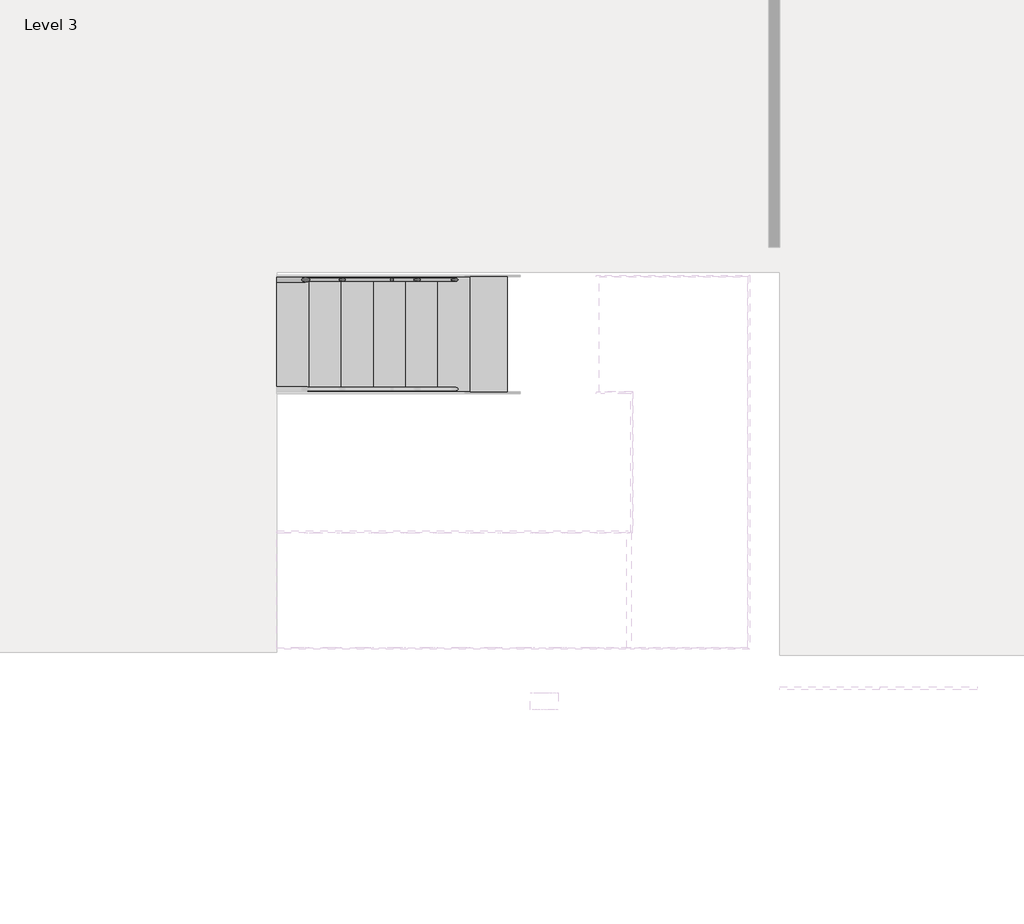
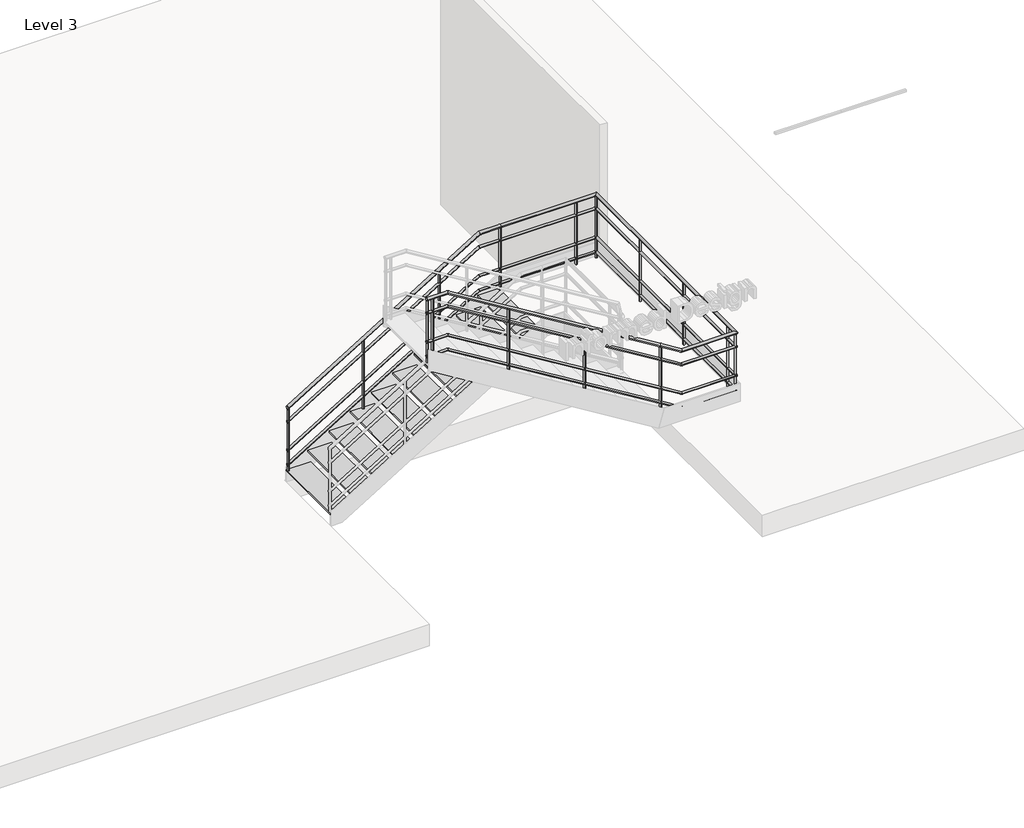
# One storey, part 6 of 7: 1 railing, 1 stair flight.
"""IFC4 building model written with IfcOpenShell, lengths in millimetres."""

from ifc_helpers import new_model, si_unit, point, frame, frame_2d, origin, place, context, project, spatial, circle_curve, ellipse_curve, trimmed, segment, composite_curve, outline, extrude, transform, mapped, element, save
from ifc_brep_helpers import plane_surface, cylinder_surface, advanced_brep
from components import concrete_steps_w_40mm_tread_40mm_nosing_744af4b3

model = new_model("IFC4")

# Units and contexts
model_context = context("Model", 3, world=origin())
ifc_project = project(units=[si_unit("LENGTHUNIT", "METRE", prefix="MILLI")], contexts=[model_context])

# Site, building, storey
site = spatial("IfcSite", under=ifc_project)
building = spatial("IfcBuilding", under=site)
storey = spatial("IfcBuildingStorey", under=building, Name="Level 3", Elevation=11000.0)

# Railing
placement = place(None, origin())
element("IfcRailing", 1, ObjectType="900mm_Pipe 2", at=placement, inside=storey, context=model_context, shape_type="SolidModel", body=[
    advanced_brep(
    [(35285.7942367, -43.5974508, 12047.9778246), (35285.7942367, -3.5974508, 12047.9778246), (37811.4304565, -43.5974508, 13594.2857143), (37811.4304565, -3.5974508, 13594.2857143), (38085.7942367, -43.5974508, 13594.2857143), (38085.7942367, -3.5974508, 13594.2857143), (39331.5511446, -43.5974508, 13594.2857143), (39371.5511446, -3.5974508, 13594.2857143), (39331.5511446, -3174.6053409, 13594.2857143), (39371.5511446, -3214.6053409, 13594.2857143), (38640.1580169, -3174.6053409, 13594.2857143), (38640.1580169, -3214.6053409, 13594.2857143), (38355.3511595, -3174.6053409, 13768.6572596), (38355.3511595, -3214.6053409, 13768.6572596), (35560.1580169, -3174.6053409, 15480.0), (35560.1580169, -3214.6053409, 15480.0), (35285.7942367, -3174.6053409, 15480.0), (35285.7942367, -3214.6053409, 15480.0)],
    [
        (0, 1, ellipse_curve(frame((35285.7942367, -23.5974508, 12047.9778246), z_axis=(-1.0, 0.0, 0.0), x_axis=(0.0, 0.0, -1.0)), 23.4507468, 20.0)),
        (1, 0, ellipse_curve(frame((35285.7942367, -23.5974508, 12047.9778246), z_axis=(-1.0, 0.0, 0.0), x_axis=(0.0, 0.0, -1.0)), 23.4507468, 20.0)),
        (0, 2),
        (2, 3, ellipse_curve(frame((37811.4304565, -23.5974508, 13594.2857143), z_axis=(-0.9625100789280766, 0.0, -0.27124591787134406), x_axis=(0.27124591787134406, 0.0, -0.9625100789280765)), 20.7790032, 20.0)),
        (3, 1),
        (3, 2, ellipse_curve(frame((37811.4304565, -23.5974508, 13594.2857143), z_axis=(-0.9625100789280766, 0.0, -0.27124591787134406), x_axis=(0.27124591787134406, 0.0, -0.9625100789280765)), 20.7790032, 20.0)),
        (2, 4),
        (4, 5, circle_curve(frame((38085.7942367, -23.5974508, 13594.2857143), z_axis=(-1.0, 0.0, 0.0), x_axis=(0.0, 1.0, 0.0)), 20.0)),
        (5, 3),
        (5, 4, circle_curve(frame((38085.7942367, -23.5974508, 13594.2857143), z_axis=(-1.0, 0.0, 0.0), x_axis=(0.0, 1.0, 0.0)), 20.0)),
        (4, 6),
        (6, 7, ellipse_curve(frame((39351.5511446, -23.5974508, 13594.2857143), z_axis=(-0.7071067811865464, 0.7071067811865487, 0.0), x_axis=(-0.7071067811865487, -0.7071067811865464, 0.0)), 28.2842712, 20.0)),
        (7, 5),
        (7, 6, ellipse_curve(frame((39351.5511446, -23.5974508, 13594.2857143), z_axis=(-0.7071067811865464, 0.7071067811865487, 0.0), x_axis=(-0.7071067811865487, -0.7071067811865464, 0.0)), 28.2842712, 20.0)),
        (6, 8),
        (8, 9, ellipse_curve(frame((39351.5511446, -3194.6053409, 13594.2857143), z_axis=(0.7071067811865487, 0.7071067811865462, 0.0), x_axis=(-0.7071067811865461, 0.7071067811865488, 0.0)), 28.2842712, 20.0)),
        (9, 7),
        (9, 8, ellipse_curve(frame((39351.5511446, -3194.6053409, 13594.2857143), z_axis=(0.7071067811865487, 0.7071067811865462, 0.0), x_axis=(-0.7071067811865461, 0.7071067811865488, 0.0)), 28.2842712, 20.0)),
        (8, 10),
        (10, 11, ellipse_curve(frame((38640.1580169, -3194.6053409, 13594.2857143), z_axis=(0.962510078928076, 0.0, -0.2712459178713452), x_axis=(0.27124591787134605, 0.0, 0.9625100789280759)), 20.7790032, 20.0)),
        (11, 9),
        (11, 10, ellipse_curve(frame((38640.1580169, -3194.6053409, 13594.2857143), z_axis=(0.962510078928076, 0.0, -0.2712459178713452), x_axis=(0.27124591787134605, 0.0, 0.9625100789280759)), 20.7790032, 20.0)),
        (10, 12),
        (12, 13, circle_curve(frame((38355.3511595, -3194.6053409, 13768.6572596), z_axis=(0.8528513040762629, 0.0, -0.522153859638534), x_axis=(0.0, -1.0, 0.0)), 20.0)),
        (13, 11),
        (13, 12, circle_curve(frame((38355.3511595, -3194.6053409, 13768.6572596), z_axis=(0.8528513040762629, 0.0, -0.522153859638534), x_axis=(0.0, -1.0, 0.0)), 20.0)),
        (12, 14),
        (14, 15, ellipse_curve(frame((35560.1580169, -3194.6053409, 15480.0), z_axis=(0.9625100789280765, 0.0, -0.2712459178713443), x_axis=(-0.2712459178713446, 0.0, -0.9625100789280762)), 20.7790032, 20.0)),
        (15, 13),
        (15, 14, ellipse_curve(frame((35560.1580169, -3194.6053409, 15480.0), z_axis=(0.9625100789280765, 0.0, -0.2712459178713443), x_axis=(-0.2712459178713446, 0.0, -0.9625100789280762)), 20.7790032, 20.0)),
        (16, 17, circle_curve(frame((35285.7942367, -3194.6053409, 15480.0), z_axis=(-1.0, 0.0, 0.0), x_axis=(0.0, -1.0, 0.0)), 20.0)),
        (17, 16, circle_curve(frame((35285.7942367, -3194.6053409, 15480.0), z_axis=(-1.0, 0.0, 0.0), x_axis=(0.0, -1.0, 0.0)), 20.0)),
        (14, 16),
        (17, 15),
    ],
    [
        plane_surface(frame((35285.7942367, -23.5974508, 12071.4285714), z_axis=(-1.0, 0.0, 0.0), x_axis=(0.0, 1.0, 0.0))),
        cylinder_surface(frame((35296.2373139, -23.5974508, 12054.3715453), z_axis=(-0.8528513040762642, 0.0, -0.5221538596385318), x_axis=(0.0, 1.0, 0.0)), 20.0),
        cylinder_surface(frame((37805.7942367, -23.5974508, 13594.2857143), z_axis=(-1.0, 0.0, 0.0), x_axis=(0.0, 1.0, 0.0)), 20.0),
        cylinder_surface(frame((38085.7942367, -23.5974508, 13594.2857143), z_axis=(-1.0, 0.0, 0.0), x_axis=(0.0, 1.0, 0.0)), 20.0),
        cylinder_surface(frame((39351.5511446, -23.5974508, 13594.2857143), z_axis=(0.0, 1.0, 0.0), x_axis=(1.0, 0.0, 0.0)), 20.0),
        cylinder_surface(frame((39351.5511446, -3194.6053409, 13594.2857143), z_axis=(1.0, 0.0, 0.0), x_axis=(0.0, -1.0, 0.0)), 20.0),
        cylinder_surface(frame((38635.3511595, -3194.6053409, 13597.2286882), z_axis=(0.8528513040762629, 0.0, -0.522153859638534), x_axis=(0.0, -1.0, 0.0)), 20.0),
        cylinder_surface(frame((38355.3511595, -3194.6053409, 13768.6572596), z_axis=(0.852851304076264, 0.0, -0.5221538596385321), x_axis=(0.0, -1.0, 0.0)), 20.0),
        plane_surface(frame((35285.7942367, -3194.6053409, 15500.0), z_axis=(-1.0, 0.0, 0.0), x_axis=(0.0, -1.0, 0.0))),
        cylinder_surface(frame((35565.7942367, -3194.6053409, 15480.0), z_axis=(1.0, 0.0, 0.0), x_axis=(0.0, -1.0, 0.0)), 20.0),
    ],
    [
        (0, [[1, 2]]),
        (1, [[-1, 3, 4, 5]]),
        (1, [[-2, -5, 6, -3]]),
        (2, [[-4, 7, 8, 9]]),
        (2, [[-6, -9, 10, -7]]),
        (3, [[-8, 11, 12, 13]]),
        (3, [[-10, -13, 14, -11]]),
        (4, [[-12, 15, 16, 17]]),
        (4, [[-14, -17, 18, -15]]),
        (5, [[-16, 19, 20, 21]]),
        (5, [[-18, -21, 22, -19]]),
        (6, [[-20, 23, 24, 25]]),
        (6, [[-22, -25, 26, -23]]),
        (7, [[-24, 27, 28, 29]]),
        (7, [[-26, -29, 30, -27]]),
        (8, [[31, 32]]),
        (9, [[-28, 33, -32, 34]]),
        (9, [[-30, -34, -31, -33]]),
    ],
),
    advanced_brep(
    [(35285.7942367, -38.5974508, 11853.8405113), (35285.7942367, -8.5974508, 11853.8405113), (37810.0214015, -38.5974508, 13399.2857143), (37810.0214015, -8.5974508, 13399.2857143), (38085.7942367, -38.5974508, 13399.2857143), (38085.7942367, -8.5974508, 13399.2857143)],
    [
        (0, 1, ellipse_curve(frame((35285.7942367, -23.5974508, 11853.8405113), z_axis=(-1.0, 0.0, 0.0), x_axis=(0.0, 0.0, -1.0)), 17.5880601, 15.0)),
        (1, 0, ellipse_curve(frame((35285.7942367, -23.5974508, 11853.8405113), z_axis=(-1.0, 0.0, 0.0), x_axis=(0.0, 0.0, -1.0)), 17.5880601, 15.0)),
        (0, 2),
        (2, 3, ellipse_curve(frame((37810.0214015, -23.5974508, 13399.2857143), z_axis=(-0.9625100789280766, 0.0, -0.27124591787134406), x_axis=(0.27124591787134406, 0.0, -0.9625100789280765)), 15.5842524, 15.0)),
        (3, 1),
        (3, 2, ellipse_curve(frame((37810.0214015, -23.5974508, 13399.2857143), z_axis=(-0.9625100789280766, 0.0, -0.27124591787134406), x_axis=(0.27124591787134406, 0.0, -0.9625100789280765)), 15.5842524, 15.0)),
        (4, 5, circle_curve(frame((38085.7942367, -23.5974508, 13399.2857143), z_axis=(1.0, 0.0, 0.0), x_axis=(0.0, 1.0, 0.0)), 15.0)),
        (5, 4, circle_curve(frame((38085.7942367, -23.5974508, 13399.2857143), z_axis=(1.0, 0.0, 0.0), x_axis=(0.0, 1.0, 0.0)), 15.0)),
        (2, 4),
        (5, 3),
    ],
    [
        plane_surface(frame((35285.7942367, -23.5974508, 11871.4285714), z_axis=(-1.0, 0.0, 0.0), x_axis=(0.0, 1.0, 0.0))),
        cylinder_surface(frame((35293.6265446, -23.5974508, 11858.6358019), z_axis=(-0.8528513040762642, 0.0, -0.5221538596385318), x_axis=(0.0, 1.0, 0.0)), 15.0),
        plane_surface(frame((38085.7942367, -23.5974508, 13414.2857143), z_axis=(1.0, 0.0, 0.0), x_axis=(0.0, 1.0, 0.0))),
        cylinder_surface(frame((37805.7942367, -23.5974508, 13399.2857143), z_axis=(-1.0, 0.0, 0.0), x_axis=(0.0, 1.0, 0.0)), 15.0),
    ],
    [
        (0, [[1, 2]]),
        (1, [[-1, 3, 4, 5]]),
        (1, [[-2, -5, 6, -3]]),
        (2, [[7, 8]]),
        (3, [[-4, 9, -8, 10]]),
        (3, [[-6, -10, -7, -9]]),
    ],
),
    advanced_brep(
    [(38085.7942367, -38.5974508, 13399.2857143), (38085.7942367, -8.5974508, 13399.2857143), (39336.5511446, -38.5974508, 13399.2857143), (39336.5511446, -8.5974508, 13399.2857143)],
    [
        (0, 1, circle_curve(frame((38085.7942367, -23.5974508, 13399.2857143), z_axis=(-1.0, 0.0, 0.0), x_axis=(0.0, 1.0, 0.0)), 15.0)),
        (1, 0, circle_curve(frame((38085.7942367, -23.5974508, 13399.2857143), z_axis=(-1.0, 0.0, 0.0), x_axis=(0.0, 1.0, 0.0)), 15.0)),
        (2, 3, circle_curve(frame((39336.5511446, -23.5974508, 13399.2857143), z_axis=(1.0, 0.0, 0.0), x_axis=(0.0, 1.0, 0.0)), 15.0)),
        (3, 2, circle_curve(frame((39336.5511446, -23.5974508, 13399.2857143), z_axis=(1.0, 0.0, 0.0), x_axis=(0.0, 1.0, 0.0)), 15.0)),
        (0, 2),
        (3, 1),
    ],
    [
        plane_surface(frame((38085.7942367, -23.5974508, 13414.2857143), z_axis=(-1.0, 0.0, 0.0), x_axis=(0.0, 1.0, 0.0))),
        plane_surface(frame((39336.5511446, -23.5974508, 13414.2857143), z_axis=(1.0, 0.0, 0.0), x_axis=(0.0, 1.0, 0.0))),
        cylinder_surface(frame((38085.7942367, -23.5974508, 13399.2857143), z_axis=(-1.0, 0.0, 0.0), x_axis=(0.0, 1.0, 0.0)), 15.0),
    ],
    [
        (0, [[1, 2]]),
        (1, [[3, 4]]),
        (2, [[-1, 5, -4, 6]]),
        (2, [[-2, -6, -3, -5]]),
    ],
),
    advanced_brep(
    [(39336.5511446, -8.5974508, 13399.2857143), (39366.5511446, -8.5974508, 13399.2857143), (39336.5511446, -3179.6053409, 13399.2857143), (39366.5511446, -3179.6053409, 13399.2857143)],
    [
        (0, 1, circle_curve(frame((39351.5511446, -8.5974508, 13399.2857143), z_axis=(0.0, 1.0, 0.0), x_axis=(1.0, 0.0, 0.0)), 15.0)),
        (1, 0, circle_curve(frame((39351.5511446, -8.5974508, 13399.2857143), z_axis=(0.0, 1.0, 0.0), x_axis=(1.0, 0.0, 0.0)), 15.0)),
        (2, 3, circle_curve(frame((39351.5511446, -3179.6053409, 13399.2857143), z_axis=(0.0, -1.0, 0.0), x_axis=(1.0, 0.0, 0.0)), 15.0)),
        (3, 2, circle_curve(frame((39351.5511446, -3179.6053409, 13399.2857143), z_axis=(0.0, -1.0, 0.0), x_axis=(1.0, 0.0, 0.0)), 15.0)),
        (0, 2),
        (3, 1),
    ],
    [
        plane_surface(frame((39351.5511446, -8.5974508, 13414.2857143), z_axis=(0.0, 1.0, 0.0), x_axis=(0.0, 0.0, -1.0))),
        plane_surface(frame((39351.5511446, -3179.6053409, 13414.2857143), z_axis=(0.0, -1.0, 0.0), x_axis=(0.0, 0.0, -1.0))),
        cylinder_surface(frame((39351.5511446, -8.5974508, 13399.2857143), z_axis=(0.0, 1.0, 0.0), x_axis=(1.0, 0.0, 0.0)), 15.0),
    ],
    [
        (0, [[1, 2]]),
        (1, [[3, 4]]),
        (2, [[-1, 5, -4, 6]]),
        (2, [[-2, -6, -3, -5]]),
    ],
),
    advanced_brep(
    [(39366.5511446, -3179.6053409, 13399.2857143), (39366.5511446, -3209.6053409, 13399.2857143), (38641.5670718, -3179.6053409, 13399.2857143), (38641.5670718, -3209.6053409, 13399.2857143), (38365.7942367, -3179.6053409, 13568.1262256), (38365.7942367, -3209.6053409, 13568.1262256)],
    [
        (0, 1, circle_curve(frame((39366.5511446, -3194.6053409, 13399.2857143), z_axis=(1.0, 0.0, 0.0), x_axis=(0.0, -1.0, 0.0)), 15.0)),
        (1, 0, circle_curve(frame((39366.5511446, -3194.6053409, 13399.2857143), z_axis=(1.0, 0.0, 0.0), x_axis=(0.0, -1.0, 0.0)), 15.0)),
        (0, 2),
        (2, 3, ellipse_curve(frame((38641.5670718, -3194.6053409, 13399.2857143), z_axis=(0.962510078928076, 0.0, -0.2712459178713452), x_axis=(0.27124591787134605, 0.0, 0.9625100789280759)), 15.5842524, 15.0)),
        (3, 1),
        (3, 2, ellipse_curve(frame((38641.5670718, -3194.6053409, 13399.2857143), z_axis=(0.962510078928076, 0.0, -0.2712459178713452), x_axis=(0.27124591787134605, 0.0, 0.9625100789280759)), 15.5842524, 15.0)),
        (4, 5, ellipse_curve(frame((38365.7942367, -3194.6053409, 13568.1262256), z_axis=(-1.0, 0.0, 0.0), x_axis=(0.0, 0.0, -1.0)), 17.5880601, 15.0)),
        (5, 4, ellipse_curve(frame((38365.7942367, -3194.6053409, 13568.1262256), z_axis=(-1.0, 0.0, 0.0), x_axis=(0.0, 0.0, -1.0)), 17.5880601, 15.0)),
        (2, 4),
        (5, 3),
    ],
    [
        plane_surface(frame((39366.5511446, -3194.6053409, 13414.2857143), z_axis=(1.0, 0.0, 0.0), x_axis=(0.0, -1.0, 0.0))),
        cylinder_surface(frame((39366.5511446, -3194.6053409, 13399.2857143), z_axis=(1.0, 0.0, 0.0), x_axis=(0.0, -1.0, 0.0)), 15.0),
        plane_surface(frame((38365.7942367, -3194.6053409, 13585.7142857), z_axis=(-1.0, 0.0, 0.0), x_axis=(0.0, -1.0, 0.0))),
        cylinder_surface(frame((38637.9619288, -3194.6053409, 13401.4929447), z_axis=(0.8528513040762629, 0.0, -0.522153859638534), x_axis=(0.0, -1.0, 0.0)), 15.0),
    ],
    [
        (0, [[1, 2]]),
        (1, [[-1, 3, 4, 5]]),
        (1, [[-2, -5, 6, -3]]),
        (2, [[7, 8]]),
        (3, [[-4, 9, -8, 10]]),
        (3, [[-6, -10, -7, -9]]),
    ],
),
    advanced_brep(
    [(38365.7942367, -3179.6053409, 13568.1262256), (38365.7942367, -3209.6053409, 13568.1262256), (35561.5670718, -3179.6053409, 15285.0), (35561.5670718, -3209.6053409, 15285.0), (35285.7942367, -3179.6053409, 15285.0), (35285.7942367, -3209.6053409, 15285.0)],
    [
        (0, 1, ellipse_curve(frame((38365.7942367, -3194.6053409, 13568.1262256), z_axis=(1.0, 0.0, 0.0), x_axis=(0.0, 0.0, -1.0)), 17.5880601, 15.0)),
        (1, 0, ellipse_curve(frame((38365.7942367, -3194.6053409, 13568.1262256), z_axis=(1.0, 0.0, 0.0), x_axis=(0.0, 0.0, -1.0)), 17.5880601, 15.0)),
        (0, 2),
        (2, 3, ellipse_curve(frame((35561.5670718, -3194.6053409, 15285.0), z_axis=(0.9625100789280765, 0.0, -0.2712459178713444), x_axis=(-0.2712459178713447, 0.0, -0.9625100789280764)), 15.5842524, 15.0)),
        (3, 1),
        (3, 2, ellipse_curve(frame((35561.5670718, -3194.6053409, 15285.0), z_axis=(0.9625100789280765, 0.0, -0.2712459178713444), x_axis=(-0.2712459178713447, 0.0, -0.9625100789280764)), 15.5842524, 15.0)),
        (4, 5, circle_curve(frame((35285.7942367, -3194.6053409, 15285.0), z_axis=(-1.0, 0.0, 0.0), x_axis=(0.0, -1.0, 0.0)), 15.0)),
        (5, 4, circle_curve(frame((35285.7942367, -3194.6053409, 15285.0), z_axis=(-1.0, 0.0, 0.0), x_axis=(0.0, -1.0, 0.0)), 15.0)),
        (2, 4),
        (5, 3),
    ],
    [
        plane_surface(frame((38365.7942367, -3194.6053409, 13585.7142857), z_axis=(1.0, 0.0, 0.0), x_axis=(0.0, -1.0, 0.0))),
        cylinder_surface(frame((38357.9619288, -3194.6053409, 13572.9215162), z_axis=(0.852851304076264, 0.0, -0.5221538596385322), x_axis=(0.0, -1.0, 0.0)), 15.0),
        plane_surface(frame((35285.7942367, -3194.6053409, 15300.0), z_axis=(-1.0, 0.0, 0.0), x_axis=(0.0, -1.0, 0.0))),
        cylinder_surface(frame((35565.7942367, -3194.6053409, 15285.0), z_axis=(1.0, 0.0, 0.0), x_axis=(0.0, -1.0, 0.0)), 15.0),
    ],
    [
        (0, [[1, 2]]),
        (1, [[-1, 3, 4, 5]]),
        (1, [[-2, -5, 6, -3]]),
        (2, [[7, 8]]),
        (3, [[-4, 9, -8, 10]]),
        (3, [[-6, -10, -7, -9]]),
    ],
),
    advanced_brep(
    [(35285.7942367, -38.5974508, 11453.8405113), (35285.7942367, -8.5974508, 11453.8405113), (37810.0214015, -38.5974508, 12999.2857143), (37810.0214015, -8.5974508, 12999.2857143), (38085.7942367, -38.5974508, 12999.2857143), (38085.7942367, -8.5974508, 12999.2857143)],
    [
        (0, 1, ellipse_curve(frame((35285.7942367, -23.5974508, 11453.8405113), z_axis=(-1.0, 0.0, 0.0), x_axis=(0.0, 0.0, -1.0)), 17.5880601, 15.0)),
        (1, 0, ellipse_curve(frame((35285.7942367, -23.5974508, 11453.8405113), z_axis=(-1.0, 0.0, 0.0), x_axis=(0.0, 0.0, -1.0)), 17.5880601, 15.0)),
        (0, 2),
        (2, 3, ellipse_curve(frame((37810.0214015, -23.5974508, 12999.2857143), z_axis=(-0.9625100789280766, 0.0, -0.27124591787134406), x_axis=(0.27124591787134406, 0.0, -0.9625100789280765)), 15.5842524, 15.0)),
        (3, 1),
        (3, 2, ellipse_curve(frame((37810.0214015, -23.5974508, 12999.2857143), z_axis=(-0.9625100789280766, 0.0, -0.27124591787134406), x_axis=(0.27124591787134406, 0.0, -0.9625100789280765)), 15.5842524, 15.0)),
        (4, 5, circle_curve(frame((38085.7942367, -23.5974508, 12999.2857143), z_axis=(1.0, 0.0, 0.0), x_axis=(0.0, 1.0, 0.0)), 15.0)),
        (5, 4, circle_curve(frame((38085.7942367, -23.5974508, 12999.2857143), z_axis=(1.0, 0.0, 0.0), x_axis=(0.0, 1.0, 0.0)), 15.0)),
        (2, 4),
        (5, 3),
    ],
    [
        plane_surface(frame((35285.7942367, -23.5974508, 11471.4285714), z_axis=(-1.0, 0.0, 0.0), x_axis=(0.0, 1.0, 0.0))),
        cylinder_surface(frame((35293.6265446, -23.5974508, 11458.6358019), z_axis=(-0.8528513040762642, 0.0, -0.5221538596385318), x_axis=(0.0, 1.0, 0.0)), 15.0),
        plane_surface(frame((38085.7942367, -23.5974508, 13014.2857143), z_axis=(1.0, 0.0, 0.0), x_axis=(0.0, 1.0, 0.0))),
        cylinder_surface(frame((37805.7942367, -23.5974508, 12999.2857143), z_axis=(-1.0, 0.0, 0.0), x_axis=(0.0, 1.0, 0.0)), 15.0),
    ],
    [
        (0, [[1, 2]]),
        (1, [[-1, 3, 4, 5]]),
        (1, [[-2, -5, 6, -3]]),
        (2, [[7, 8]]),
        (3, [[-4, 9, -8, 10]]),
        (3, [[-6, -10, -7, -9]]),
    ],
),
    advanced_brep(
    [(38085.7942367, -38.5974508, 12999.2857143), (38085.7942367, -8.5974508, 12999.2857143), (39336.5511446, -38.5974508, 12999.2857143), (39336.5511446, -8.5974508, 12999.2857143)],
    [
        (0, 1, circle_curve(frame((38085.7942367, -23.5974508, 12999.2857143), z_axis=(-1.0, 0.0, 0.0), x_axis=(0.0, 1.0, 0.0)), 15.0)),
        (1, 0, circle_curve(frame((38085.7942367, -23.5974508, 12999.2857143), z_axis=(-1.0, 0.0, 0.0), x_axis=(0.0, 1.0, 0.0)), 15.0)),
        (2, 3, circle_curve(frame((39336.5511446, -23.5974508, 12999.2857143), z_axis=(1.0, 0.0, 0.0), x_axis=(0.0, 1.0, 0.0)), 15.0)),
        (3, 2, circle_curve(frame((39336.5511446, -23.5974508, 12999.2857143), z_axis=(1.0, 0.0, 0.0), x_axis=(0.0, 1.0, 0.0)), 15.0)),
        (0, 2),
        (3, 1),
    ],
    [
        plane_surface(frame((38085.7942367, -23.5974508, 13014.2857143), z_axis=(-1.0, 0.0, 0.0), x_axis=(0.0, 1.0, 0.0))),
        plane_surface(frame((39336.5511446, -23.5974508, 13014.2857143), z_axis=(1.0, 0.0, 0.0), x_axis=(0.0, 1.0, 0.0))),
        cylinder_surface(frame((38085.7942367, -23.5974508, 12999.2857143), z_axis=(-1.0, 0.0, 0.0), x_axis=(0.0, 1.0, 0.0)), 15.0),
    ],
    [
        (0, [[1, 2]]),
        (1, [[3, 4]]),
        (2, [[-1, 5, -4, 6]]),
        (2, [[-2, -6, -3, -5]]),
    ],
),
    advanced_brep(
    [(39336.5511446, -8.5974508, 12999.2857143), (39366.5511446, -8.5974508, 12999.2857143), (39336.5511446, -3179.6053409, 12999.2857143), (39366.5511446, -3179.6053409, 12999.2857143)],
    [
        (0, 1, circle_curve(frame((39351.5511446, -8.5974508, 12999.2857143), z_axis=(0.0, 1.0, 0.0), x_axis=(1.0, 0.0, 0.0)), 15.0)),
        (1, 0, circle_curve(frame((39351.5511446, -8.5974508, 12999.2857143), z_axis=(0.0, 1.0, 0.0), x_axis=(1.0, 0.0, 0.0)), 15.0)),
        (2, 3, circle_curve(frame((39351.5511446, -3179.6053409, 12999.2857143), z_axis=(0.0, -1.0, 0.0), x_axis=(1.0, 0.0, 0.0)), 15.0)),
        (3, 2, circle_curve(frame((39351.5511446, -3179.6053409, 12999.2857143), z_axis=(0.0, -1.0, 0.0), x_axis=(1.0, 0.0, 0.0)), 15.0)),
        (0, 2),
        (3, 1),
    ],
    [
        plane_surface(frame((39351.5511446, -8.5974508, 13014.2857143), z_axis=(0.0, 1.0, 0.0), x_axis=(0.0, 0.0, -1.0))),
        plane_surface(frame((39351.5511446, -3179.6053409, 13014.2857143), z_axis=(0.0, -1.0, 0.0), x_axis=(0.0, 0.0, -1.0))),
        cylinder_surface(frame((39351.5511446, -8.5974508, 12999.2857143), z_axis=(0.0, 1.0, 0.0), x_axis=(1.0, 0.0, 0.0)), 15.0),
    ],
    [
        (0, [[1, 2]]),
        (1, [[3, 4]]),
        (2, [[-1, 5, -4, 6]]),
        (2, [[-2, -6, -3, -5]]),
    ],
),
    advanced_brep(
    [(39366.5511446, -3179.6053409, 12999.2857143), (39366.5511446, -3209.6053409, 12999.2857143), (38641.5670718, -3179.6053409, 12999.2857143), (38641.5670718, -3209.6053409, 12999.2857143), (38365.7942367, -3179.6053409, 13168.1262256), (38365.7942367, -3209.6053409, 13168.1262256)],
    [
        (0, 1, circle_curve(frame((39366.5511446, -3194.6053409, 12999.2857143), z_axis=(1.0, 0.0, 0.0), x_axis=(0.0, -1.0, 0.0)), 15.0)),
        (1, 0, circle_curve(frame((39366.5511446, -3194.6053409, 12999.2857143), z_axis=(1.0, 0.0, 0.0), x_axis=(0.0, -1.0, 0.0)), 15.0)),
        (0, 2),
        (2, 3, ellipse_curve(frame((38641.5670718, -3194.6053409, 12999.2857143), z_axis=(0.962510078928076, 0.0, -0.2712459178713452), x_axis=(0.27124591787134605, 0.0, 0.9625100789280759)), 15.5842524, 15.0)),
        (3, 1),
        (3, 2, ellipse_curve(frame((38641.5670718, -3194.6053409, 12999.2857143), z_axis=(0.962510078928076, 0.0, -0.2712459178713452), x_axis=(0.27124591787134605, 0.0, 0.9625100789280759)), 15.5842524, 15.0)),
        (4, 5, ellipse_curve(frame((38365.7942367, -3194.6053409, 13168.1262256), z_axis=(-1.0, 0.0, 0.0), x_axis=(0.0, 0.0, -1.0)), 17.5880601, 15.0)),
        (5, 4, ellipse_curve(frame((38365.7942367, -3194.6053409, 13168.1262256), z_axis=(-1.0, 0.0, 0.0), x_axis=(0.0, 0.0, -1.0)), 17.5880601, 15.0)),
        (2, 4),
        (5, 3),
    ],
    [
        plane_surface(frame((39366.5511446, -3194.6053409, 13014.2857143), z_axis=(1.0, 0.0, 0.0), x_axis=(0.0, -1.0, 0.0))),
        cylinder_surface(frame((39366.5511446, -3194.6053409, 12999.2857143), z_axis=(1.0, 0.0, 0.0), x_axis=(0.0, -1.0, 0.0)), 15.0),
        plane_surface(frame((38365.7942367, -3194.6053409, 13185.7142857), z_axis=(-1.0, 0.0, 0.0), x_axis=(0.0, -1.0, 0.0))),
        cylinder_surface(frame((38637.9619288, -3194.6053409, 13001.4929447), z_axis=(0.8528513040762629, 0.0, -0.522153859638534), x_axis=(0.0, -1.0, 0.0)), 15.0),
    ],
    [
        (0, [[1, 2]]),
        (1, [[-1, 3, 4, 5]]),
        (1, [[-2, -5, 6, -3]]),
        (2, [[7, 8]]),
        (3, [[-4, 9, -8, 10]]),
        (3, [[-6, -10, -7, -9]]),
    ],
),
    advanced_brep(
    [(38365.7942367, -3179.6053409, 13168.1262256), (38365.7942367, -3209.6053409, 13168.1262256), (35561.5670718, -3179.6053409, 14885.0), (35561.5670718, -3209.6053409, 14885.0), (35285.7942367, -3179.6053409, 14885.0), (35285.7942367, -3209.6053409, 14885.0)],
    [
        (0, 1, ellipse_curve(frame((38365.7942367, -3194.6053409, 13168.1262256), z_axis=(1.0, 0.0, 0.0), x_axis=(0.0, 0.0, -1.0)), 17.5880601, 15.0)),
        (1, 0, ellipse_curve(frame((38365.7942367, -3194.6053409, 13168.1262256), z_axis=(1.0, 0.0, 0.0), x_axis=(0.0, 0.0, -1.0)), 17.5880601, 15.0)),
        (0, 2),
        (2, 3, ellipse_curve(frame((35561.5670718, -3194.6053409, 14885.0), z_axis=(0.9625100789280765, 0.0, -0.2712459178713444), x_axis=(-0.2712459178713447, 0.0, -0.9625100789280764)), 15.5842524, 15.0)),
        (3, 1),
        (3, 2, ellipse_curve(frame((35561.5670718, -3194.6053409, 14885.0), z_axis=(0.9625100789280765, 0.0, -0.2712459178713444), x_axis=(-0.2712459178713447, 0.0, -0.9625100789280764)), 15.5842524, 15.0)),
        (4, 5, circle_curve(frame((35285.7942367, -3194.6053409, 14885.0), z_axis=(-1.0, 0.0, 0.0), x_axis=(0.0, -1.0, 0.0)), 15.0)),
        (5, 4, circle_curve(frame((35285.7942367, -3194.6053409, 14885.0), z_axis=(-1.0, 0.0, 0.0), x_axis=(0.0, -1.0, 0.0)), 15.0)),
        (2, 4),
        (5, 3),
    ],
    [
        plane_surface(frame((38365.7942367, -3194.6053409, 13185.7142857), z_axis=(1.0, 0.0, 0.0), x_axis=(0.0, -1.0, 0.0))),
        cylinder_surface(frame((38357.9619288, -3194.6053409, 13172.9215162), z_axis=(0.852851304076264, 0.0, -0.5221538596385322), x_axis=(0.0, -1.0, 0.0)), 15.0),
        plane_surface(frame((35285.7942367, -3194.6053409, 14900.0), z_axis=(-1.0, 0.0, 0.0), x_axis=(0.0, -1.0, 0.0))),
        cylinder_surface(frame((35565.7942367, -3194.6053409, 14885.0), z_axis=(1.0, 0.0, 0.0), x_axis=(0.0, -1.0, 0.0)), 15.0),
    ],
    [
        (0, [[1, 2]]),
        (1, [[-1, 3, 4, 5]]),
        (1, [[-2, -5, 6, -3]]),
        (2, [[7, 8]]),
        (3, [[-4, 9, -8, 10]]),
        (3, [[-6, -10, -7, -9]]),
    ],
),
    advanced_brep(
    [(35285.7942367, -38.5974508, 11253.8405113), (35285.7942367, -8.5974508, 11253.8405113), (37810.0214015, -38.5974508, 12799.2857143), (37810.0214015, -8.5974508, 12799.2857143), (38085.7942367, -38.5974508, 12799.2857143), (38085.7942367, -8.5974508, 12799.2857143)],
    [
        (0, 1, ellipse_curve(frame((35285.7942367, -23.5974508, 11253.8405113), z_axis=(-1.0, 0.0, 0.0), x_axis=(0.0, 0.0, -1.0)), 17.5880601, 15.0)),
        (1, 0, ellipse_curve(frame((35285.7942367, -23.5974508, 11253.8405113), z_axis=(-1.0, 0.0, 0.0), x_axis=(0.0, 0.0, -1.0)), 17.5880601, 15.0)),
        (0, 2),
        (2, 3, ellipse_curve(frame((37810.0214015, -23.5974508, 12799.2857143), z_axis=(-0.9625100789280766, 0.0, -0.27124591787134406), x_axis=(0.27124591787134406, 0.0, -0.9625100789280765)), 15.5842524, 15.0)),
        (3, 1),
        (3, 2, ellipse_curve(frame((37810.0214015, -23.5974508, 12799.2857143), z_axis=(-0.9625100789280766, 0.0, -0.27124591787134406), x_axis=(0.27124591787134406, 0.0, -0.9625100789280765)), 15.5842524, 15.0)),
        (4, 5, circle_curve(frame((38085.7942367, -23.5974508, 12799.2857143), z_axis=(1.0, 0.0, 0.0), x_axis=(0.0, 1.0, 0.0)), 15.0)),
        (5, 4, circle_curve(frame((38085.7942367, -23.5974508, 12799.2857143), z_axis=(1.0, 0.0, 0.0), x_axis=(0.0, 1.0, 0.0)), 15.0)),
        (2, 4),
        (5, 3),
    ],
    [
        plane_surface(frame((35285.7942367, -23.5974508, 11271.4285714), z_axis=(-1.0, 0.0, 0.0), x_axis=(0.0, 1.0, 0.0))),
        cylinder_surface(frame((35293.6265446, -23.5974508, 11258.6358019), z_axis=(-0.8528513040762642, 0.0, -0.5221538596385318), x_axis=(0.0, 1.0, 0.0)), 15.0),
        plane_surface(frame((38085.7942367, -23.5974508, 12814.2857143), z_axis=(1.0, 0.0, 0.0), x_axis=(0.0, 1.0, 0.0))),
        cylinder_surface(frame((37805.7942367, -23.5974508, 12799.2857143), z_axis=(-1.0, 0.0, 0.0), x_axis=(0.0, 1.0, 0.0)), 15.0),
    ],
    [
        (0, [[1, 2]]),
        (1, [[-1, 3, 4, 5]]),
        (1, [[-2, -5, 6, -3]]),
        (2, [[7, 8]]),
        (3, [[-4, 9, -8, 10]]),
        (3, [[-6, -10, -7, -9]]),
    ],
),
    advanced_brep(
    [(38085.7942367, -38.5974508, 12799.2857143), (38085.7942367, -8.5974508, 12799.2857143), (39336.5511446, -38.5974508, 12799.2857143), (39336.5511446, -8.5974508, 12799.2857143)],
    [
        (0, 1, circle_curve(frame((38085.7942367, -23.5974508, 12799.2857143), z_axis=(-1.0, 0.0, 0.0), x_axis=(0.0, 1.0, 0.0)), 15.0)),
        (1, 0, circle_curve(frame((38085.7942367, -23.5974508, 12799.2857143), z_axis=(-1.0, 0.0, 0.0), x_axis=(0.0, 1.0, 0.0)), 15.0)),
        (2, 3, circle_curve(frame((39336.5511446, -23.5974508, 12799.2857143), z_axis=(1.0, 0.0, 0.0), x_axis=(0.0, 1.0, 0.0)), 15.0)),
        (3, 2, circle_curve(frame((39336.5511446, -23.5974508, 12799.2857143), z_axis=(1.0, 0.0, 0.0), x_axis=(0.0, 1.0, 0.0)), 15.0)),
        (0, 2),
        (3, 1),
    ],
    [
        plane_surface(frame((38085.7942367, -23.5974508, 12814.2857143), z_axis=(-1.0, 0.0, 0.0), x_axis=(0.0, 1.0, 0.0))),
        plane_surface(frame((39336.5511446, -23.5974508, 12814.2857143), z_axis=(1.0, 0.0, 0.0), x_axis=(0.0, 1.0, 0.0))),
        cylinder_surface(frame((38085.7942367, -23.5974508, 12799.2857143), z_axis=(-1.0, 0.0, 0.0), x_axis=(0.0, 1.0, 0.0)), 15.0),
    ],
    [
        (0, [[1, 2]]),
        (1, [[3, 4]]),
        (2, [[-1, 5, -4, 6]]),
        (2, [[-2, -6, -3, -5]]),
    ],
),
    advanced_brep(
    [(39336.5511446, -8.5974508, 12799.2857143), (39366.5511446, -8.5974508, 12799.2857143), (39336.5511446, -3179.6053409, 12799.2857143), (39366.5511446, -3179.6053409, 12799.2857143)],
    [
        (0, 1, circle_curve(frame((39351.5511446, -8.5974508, 12799.2857143), z_axis=(0.0, 1.0, 0.0), x_axis=(1.0, 0.0, 0.0)), 15.0)),
        (1, 0, circle_curve(frame((39351.5511446, -8.5974508, 12799.2857143), z_axis=(0.0, 1.0, 0.0), x_axis=(1.0, 0.0, 0.0)), 15.0)),
        (2, 3, circle_curve(frame((39351.5511446, -3179.6053409, 12799.2857143), z_axis=(0.0, -1.0, 0.0), x_axis=(1.0, 0.0, 0.0)), 15.0)),
        (3, 2, circle_curve(frame((39351.5511446, -3179.6053409, 12799.2857143), z_axis=(0.0, -1.0, 0.0), x_axis=(1.0, 0.0, 0.0)), 15.0)),
        (0, 2),
        (3, 1),
    ],
    [
        plane_surface(frame((39351.5511446, -8.5974508, 12814.2857143), z_axis=(0.0, 1.0, 0.0), x_axis=(0.0, 0.0, -1.0))),
        plane_surface(frame((39351.5511446, -3179.6053409, 12814.2857143), z_axis=(0.0, -1.0, 0.0), x_axis=(0.0, 0.0, -1.0))),
        cylinder_surface(frame((39351.5511446, -8.5974508, 12799.2857143), z_axis=(0.0, 1.0, 0.0), x_axis=(1.0, 0.0, 0.0)), 15.0),
    ],
    [
        (0, [[1, 2]]),
        (1, [[3, 4]]),
        (2, [[-1, 5, -4, 6]]),
        (2, [[-2, -6, -3, -5]]),
    ],
),
    advanced_brep(
    [(39366.5511446, -3179.6053409, 12799.2857143), (39366.5511446, -3209.6053409, 12799.2857143), (38641.5670718, -3179.6053409, 12799.2857143), (38641.5670718, -3209.6053409, 12799.2857143), (38365.7942367, -3179.6053409, 12968.1262256), (38365.7942367, -3209.6053409, 12968.1262256)],
    [
        (0, 1, circle_curve(frame((39366.5511446, -3194.6053409, 12799.2857143), z_axis=(1.0, 0.0, 0.0), x_axis=(0.0, -1.0, 0.0)), 15.0)),
        (1, 0, circle_curve(frame((39366.5511446, -3194.6053409, 12799.2857143), z_axis=(1.0, 0.0, 0.0), x_axis=(0.0, -1.0, 0.0)), 15.0)),
        (0, 2),
        (2, 3, ellipse_curve(frame((38641.5670718, -3194.6053409, 12799.2857143), z_axis=(0.962510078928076, 0.0, -0.2712459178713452), x_axis=(0.27124591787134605, 0.0, 0.9625100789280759)), 15.5842524, 15.0)),
        (3, 1),
        (3, 2, ellipse_curve(frame((38641.5670718, -3194.6053409, 12799.2857143), z_axis=(0.962510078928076, 0.0, -0.2712459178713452), x_axis=(0.27124591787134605, 0.0, 0.9625100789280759)), 15.5842524, 15.0)),
        (4, 5, ellipse_curve(frame((38365.7942367, -3194.6053409, 12968.1262256), z_axis=(-1.0, 0.0, 0.0), x_axis=(0.0, 0.0, -1.0)), 17.5880601, 15.0)),
        (5, 4, ellipse_curve(frame((38365.7942367, -3194.6053409, 12968.1262256), z_axis=(-1.0, 0.0, 0.0), x_axis=(0.0, 0.0, -1.0)), 17.5880601, 15.0)),
        (2, 4),
        (5, 3),
    ],
    [
        plane_surface(frame((39366.5511446, -3194.6053409, 12814.2857143), z_axis=(1.0, 0.0, 0.0), x_axis=(0.0, -1.0, 0.0))),
        cylinder_surface(frame((39366.5511446, -3194.6053409, 12799.2857143), z_axis=(1.0, 0.0, 0.0), x_axis=(0.0, -1.0, 0.0)), 15.0),
        plane_surface(frame((38365.7942367, -3194.6053409, 12985.7142857), z_axis=(-1.0, 0.0, 0.0), x_axis=(0.0, -1.0, 0.0))),
        cylinder_surface(frame((38637.9619288, -3194.6053409, 12801.4929447), z_axis=(0.8528513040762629, 0.0, -0.522153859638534), x_axis=(0.0, -1.0, 0.0)), 15.0),
    ],
    [
        (0, [[1, 2]]),
        (1, [[-1, 3, 4, 5]]),
        (1, [[-2, -5, 6, -3]]),
        (2, [[7, 8]]),
        (3, [[-4, 9, -8, 10]]),
        (3, [[-6, -10, -7, -9]]),
    ],
),
    advanced_brep(
    [(38365.7942367, -3179.6053409, 12968.1262256), (38365.7942367, -3209.6053409, 12968.1262256), (35561.5670718, -3179.6053409, 14685.0), (35561.5670718, -3209.6053409, 14685.0), (35285.7942367, -3179.6053409, 14685.0), (35285.7942367, -3209.6053409, 14685.0)],
    [
        (0, 1, ellipse_curve(frame((38365.7942367, -3194.6053409, 12968.1262256), z_axis=(1.0, 0.0, 0.0), x_axis=(0.0, 0.0, -1.0)), 17.5880601, 15.0)),
        (1, 0, ellipse_curve(frame((38365.7942367, -3194.6053409, 12968.1262256), z_axis=(1.0, 0.0, 0.0), x_axis=(0.0, 0.0, -1.0)), 17.5880601, 15.0)),
        (0, 2),
        (2, 3, ellipse_curve(frame((35561.5670718, -3194.6053409, 14685.0), z_axis=(0.9625100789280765, 0.0, -0.2712459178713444), x_axis=(-0.2712459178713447, 0.0, -0.9625100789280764)), 15.5842524, 15.0)),
        (3, 1),
        (3, 2, ellipse_curve(frame((35561.5670718, -3194.6053409, 14685.0), z_axis=(0.9625100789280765, 0.0, -0.2712459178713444), x_axis=(-0.2712459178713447, 0.0, -0.9625100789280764)), 15.5842524, 15.0)),
        (4, 5, circle_curve(frame((35285.7942367, -3194.6053409, 14685.0), z_axis=(-1.0, 0.0, 0.0), x_axis=(0.0, -1.0, 0.0)), 15.0)),
        (5, 4, circle_curve(frame((35285.7942367, -3194.6053409, 14685.0), z_axis=(-1.0, 0.0, 0.0), x_axis=(0.0, -1.0, 0.0)), 15.0)),
        (2, 4),
        (5, 3),
    ],
    [
        plane_surface(frame((38365.7942367, -3194.6053409, 12985.7142857), z_axis=(1.0, 0.0, 0.0), x_axis=(0.0, -1.0, 0.0))),
        cylinder_surface(frame((38357.9619288, -3194.6053409, 12972.9215162), z_axis=(0.852851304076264, 0.0, -0.5221538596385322), x_axis=(0.0, -1.0, 0.0)), 15.0),
        plane_surface(frame((35285.7942367, -3194.6053409, 14700.0), z_axis=(-1.0, 0.0, 0.0), x_axis=(0.0, -1.0, 0.0))),
        cylinder_surface(frame((35565.7942367, -3194.6053409, 14685.0), z_axis=(1.0, 0.0, 0.0), x_axis=(0.0, -1.0, 0.0)), 15.0),
    ],
    [
        (0, [[1, 2]]),
        (1, [[-1, 3, 4, 5]]),
        (1, [[-2, -5, 6, -3]]),
        (2, [[7, 8]]),
        (3, [[-4, 9, -8, 10]]),
        (3, [[-6, -10, -7, -9]]),
    ],
),
    extrude(outline(composite_curve([segment(trimmed(circle_curve(frame_2d((35365.7942367, -3194.6053409)), 12.5), [point((35365.7942367, -3182.1053409))], [point((35365.7942367, -3207.1053409))], False, "CARTESIAN"), True, "CONTINUOUS"), segment(trimmed(circle_curve(frame_2d((35365.7942367, -3194.6053409)), 12.5), [point((35365.7942367, -3207.1053409))], [point((35365.7942367, -3182.1053409))], False, "CARTESIAN"), True, "CONTINUOUS")], self_intersect=False)), frame((0.0, 0.0, 14600.0), z_axis=(0.0, 0.0, 1.0), x_axis=(1.0, 0.0, 0.0)), (0.0, 0.0, 1.0), 860.0),
    advanced_brep(
    [(36365.7942367, -3207.1053409, 14963.302588), (36365.7942367, -3182.1053409, 14963.302588), (36365.7942367, -3182.1053409, 14085.7142857), (36365.7942367, -3207.1053409, 14085.7142857)],
    [
        (0, 1, ellipse_curve(frame((36365.7942367, -3194.6053409, 14963.302588), z_axis=(-0.5221538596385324, 0.0, -0.8528513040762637), x_axis=(-0.8528513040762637, 0.0, 0.5221538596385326)), 14.6567168, 12.5)),
        (1, 2),
        (2, 3, circle_curve(frame((36365.7942367, -3194.6053409, 14085.7142857), z_axis=(0.0, 0.0, 1.0), x_axis=(0.0, 1.0, 0.0)), 12.5)),
        (3, 0),
        (3, 2, circle_curve(frame((36365.7942367, -3194.6053409, 14085.7142857), z_axis=(0.0, 0.0, 1.0), x_axis=(0.0, 1.0, 0.0)), 12.5)),
        (1, 0, ellipse_curve(frame((36365.7942367, -3194.6053409, 14963.302588), z_axis=(-0.5221538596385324, 0.0, -0.8528513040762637), x_axis=(-0.8528513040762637, 0.0, 0.5221538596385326)), 14.6567168, 12.5)),
    ],
    [
        cylinder_surface(frame((36365.7942367, -3194.6053409, 13985.7142857), z_axis=(0.0, 0.0, 1.0), x_axis=(0.0, 1.0, 0.0)), 12.5),
        plane_surface(frame((36340.7942367, -3169.6053409, 14978.6087105), z_axis=(0.5221538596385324, 0.0, 0.8528513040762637), x_axis=(0.0, -1.0, 0.0))),
        plane_surface(frame((36390.7942367, -3169.6053409, 14085.7142857), z_axis=(0.0, 0.0, -1.0), x_axis=(0.0, -1.0, 0.0))),
    ],
    [
        (0, [[1, 2, 3, 4]]),
        (0, [[5, -2, 6, -4]]),
        (1, [[-6, -1]]),
        (2, [[-5, -3]]),
    ],
),
    advanced_brep(
    [(37365.7942367, -3207.1053409, 14351.05769), (37365.7942367, -3182.1053409, 14351.05769), (37365.7942367, -3182.1053409, 13400.0), (37365.7942367, -3207.1053409, 13400.0)],
    [
        (0, 1, ellipse_curve(frame((37365.7942367, -3194.6053409, 14351.05769), z_axis=(-0.5221538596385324, 0.0, -0.8528513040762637), x_axis=(-0.8528513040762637, 0.0, 0.5221538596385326)), 14.6567168, 12.5)),
        (1, 2),
        (2, 3, circle_curve(frame((37365.7942367, -3194.6053409, 13400.0), z_axis=(0.0, 0.0, 1.0), x_axis=(0.0, 1.0, 0.0)), 12.5)),
        (3, 0),
        (3, 2, circle_curve(frame((37365.7942367, -3194.6053409, 13400.0), z_axis=(0.0, 0.0, 1.0), x_axis=(0.0, 1.0, 0.0)), 12.5)),
        (1, 0, ellipse_curve(frame((37365.7942367, -3194.6053409, 14351.05769), z_axis=(-0.5221538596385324, 0.0, -0.8528513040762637), x_axis=(-0.8528513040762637, 0.0, 0.5221538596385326)), 14.6567168, 12.5)),
    ],
    [
        cylinder_surface(frame((37365.7942367, -3194.6053409, 13300.0), z_axis=(0.0, 0.0, 1.0), x_axis=(0.0, 1.0, 0.0)), 12.5),
        plane_surface(frame((37340.7942367, -3169.6053409, 14366.3638125), z_axis=(0.5221538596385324, 0.0, 0.8528513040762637), x_axis=(0.0, -1.0, 0.0))),
        plane_surface(frame((37390.7942367, -3169.6053409, 13400.0), z_axis=(0.0, 0.0, -1.0), x_axis=(0.0, -1.0, 0.0))),
    ],
    [
        (0, [[1, 2, 3, 4]]),
        (0, [[5, -2, 6, -4]]),
        (1, [[-6, -1]]),
        (2, [[-5, -3]]),
    ],
),
    extrude(outline(composite_curve([segment(trimmed(circle_curve(frame_2d((39351.5511446, -3023.5974508)), 12.5), [point((39339.0511446, -3023.5974508))], [point((39364.0511446, -3023.5974508))], False, "CARTESIAN"), True, "CONTINUOUS"), segment(trimmed(circle_curve(frame_2d((39351.5511446, -3023.5974508)), 12.5), [point((39364.0511446, -3023.5974508))], [point((39339.0511446, -3023.5974508))], False, "CARTESIAN"), True, "CONTINUOUS")], self_intersect=False)), frame((0.0, 0.0, 12714.2857143), z_axis=(0.0, 0.0, 1.0), x_axis=(1.0, 0.0, 0.0)), (0.0, 0.0, 1.0), 860.0),
    extrude(outline(composite_curve([segment(trimmed(circle_curve(frame_2d((39351.5511446, -2023.5974508)), 12.5), [point((39339.0511446, -2023.5974508))], [point((39364.0511446, -2023.5974508))], False, "CARTESIAN"), True, "CONTINUOUS"), segment(trimmed(circle_curve(frame_2d((39351.5511446, -2023.5974508)), 12.5), [point((39364.0511446, -2023.5974508))], [point((39339.0511446, -2023.5974508))], False, "CARTESIAN"), True, "CONTINUOUS")], self_intersect=False)), frame((0.0, 0.0, 12714.2857143), z_axis=(0.0, 0.0, 1.0), x_axis=(1.0, 0.0, 0.0)), (0.0, 0.0, 1.0), 860.0),
    extrude(outline(composite_curve([segment(trimmed(circle_curve(frame_2d((39351.5511446, -1023.5974508)), 12.5), [point((39339.0511446, -1023.5974508))], [point((39364.0511446, -1023.5974508))], False, "CARTESIAN"), True, "CONTINUOUS"), segment(trimmed(circle_curve(frame_2d((39351.5511446, -1023.5974508)), 12.5), [point((39364.0511446, -1023.5974508))], [point((39339.0511446, -1023.5974508))], False, "CARTESIAN"), True, "CONTINUOUS")], self_intersect=False)), frame((0.0, 0.0, 12714.2857143), z_axis=(0.0, 0.0, 1.0), x_axis=(1.0, 0.0, 0.0)), (0.0, 0.0, 1.0), 860.0),
    extrude(outline(composite_curve([segment(trimmed(circle_curve(frame_2d((39085.7942367, -23.5974508)), 12.5), [point((39085.7942367, -36.0974508))], [point((39085.7942367, -11.0974508))], False, "CARTESIAN"), True, "CONTINUOUS"), segment(trimmed(circle_curve(frame_2d((39085.7942367, -23.5974508)), 12.5), [point((39085.7942367, -11.0974508))], [point((39085.7942367, -36.0974508))], False, "CARTESIAN"), True, "CONTINUOUS")], self_intersect=False)), frame((0.0, 0.0, 12714.2857143), z_axis=(0.0, 0.0, 1.0), x_axis=(1.0, 0.0, 0.0)), (0.0, 0.0, 1.0), 860.0),
    advanced_brep(
    [(37285.7942367, -11.0974508, 13249.0168737), (37285.7942367, -36.0974508, 13249.0168737), (37285.7942367, -36.0974508, 12371.4285714), (37285.7942367, -11.0974508, 12371.4285714)],
    [
        (0, 1, ellipse_curve(frame((37285.7942367, -23.5974508, 13249.0168737), z_axis=(0.5221538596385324, 0.0, -0.8528513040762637), x_axis=(0.8528513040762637, 0.0, 0.5221538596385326)), 14.6567168, 12.5)),
        (1, 2),
        (2, 3, circle_curve(frame((37285.7942367, -23.5974508, 12371.4285714), z_axis=(0.0, 0.0, 1.0), x_axis=(0.0, -1.0, 0.0)), 12.5)),
        (3, 0),
        (3, 2, circle_curve(frame((37285.7942367, -23.5974508, 12371.4285714), z_axis=(0.0, 0.0, 1.0), x_axis=(0.0, -1.0, 0.0)), 12.5)),
        (1, 0, ellipse_curve(frame((37285.7942367, -23.5974508, 13249.0168737), z_axis=(0.5221538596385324, 0.0, -0.8528513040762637), x_axis=(0.8528513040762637, 0.0, 0.5221538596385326)), 14.6567168, 12.5)),
    ],
    [
        cylinder_surface(frame((37285.7942367, -23.5974508, 12271.4285714), z_axis=(0.0, 0.0, 1.0), x_axis=(0.0, -1.0, 0.0)), 12.5),
        plane_surface(frame((37310.7942367, -48.5974508, 13264.3229962), z_axis=(-0.5221538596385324, 0.0, 0.8528513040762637), x_axis=(0.0, 1.0, 0.0))),
        plane_surface(frame((37260.7942367, -48.5974508, 12371.4285714), z_axis=(0.0, 0.0, -1.0), x_axis=(0.0, 1.0, 0.0))),
    ],
    [
        (0, [[1, 2, 3, 4]]),
        (0, [[5, -2, 6, -4]]),
        (1, [[-6, -1]]),
        (2, [[-5, -3]]),
    ],
),
    advanced_brep(
    [(36285.7942367, -11.0974508, 12636.7719758), (36285.7942367, -36.0974508, 12636.7719758), (36285.7942367, -36.0974508, 11685.7142857), (36285.7942367, -11.0974508, 11685.7142857)],
    [
        (0, 1, ellipse_curve(frame((36285.7942367, -23.5974508, 12636.7719758), z_axis=(0.5221538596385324, 0.0, -0.8528513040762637), x_axis=(0.8528513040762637, 0.0, 0.5221538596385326)), 14.6567168, 12.5)),
        (1, 2),
        (2, 3, circle_curve(frame((36285.7942367, -23.5974508, 11685.7142857), z_axis=(0.0, 0.0, 1.0), x_axis=(0.0, -1.0, 0.0)), 12.5)),
        (3, 0),
        (3, 2, circle_curve(frame((36285.7942367, -23.5974508, 11685.7142857), z_axis=(0.0, 0.0, 1.0), x_axis=(0.0, -1.0, 0.0)), 12.5)),
        (1, 0, ellipse_curve(frame((36285.7942367, -23.5974508, 12636.7719758), z_axis=(0.5221538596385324, 0.0, -0.8528513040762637), x_axis=(0.8528513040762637, 0.0, 0.5221538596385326)), 14.6567168, 12.5)),
    ],
    [
        cylinder_surface(frame((36285.7942367, -23.5974508, 11585.7142857), z_axis=(0.0, 0.0, 1.0), x_axis=(0.0, -1.0, 0.0)), 12.5),
        plane_surface(frame((36310.7942367, -48.5974508, 12652.0780982), z_axis=(-0.5221538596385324, 0.0, 0.8528513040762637), x_axis=(0.0, 1.0, 0.0))),
        plane_surface(frame((36260.7942367, -48.5974508, 11685.7142857), z_axis=(0.0, 0.0, -1.0), x_axis=(0.0, 1.0, 0.0))),
    ],
    [
        (0, [[1, 2, 3, 4]]),
        (0, [[5, -2, 6, -4]]),
        (1, [[-6, -1]]),
        (2, [[-5, -3]]),
    ],
),
    advanced_brep(
    [(38365.7942367, -3207.1053409, 13738.8127921), (38365.7942367, -3182.1053409, 13738.8127921), (38365.7942367, -3182.1053409, 12714.2857143), (38365.7942367, -3207.1053409, 12714.2857143)],
    [
        (0, 1, ellipse_curve(frame((38365.7942367, -3194.6053409, 13738.8127921), z_axis=(-0.5221538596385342, 0.0, -0.8528513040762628), x_axis=(-0.852851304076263, 0.0, 0.5221538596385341)), 14.6567168, 12.5)),
        (1, 2),
        (2, 3, circle_curve(frame((38365.7942367, -3194.6053409, 12714.2857143), z_axis=(0.0, 0.0, 1.0), x_axis=(0.0, 1.0, 0.0)), 12.5)),
        (3, 0),
        (3, 2, circle_curve(frame((38365.7942367, -3194.6053409, 12714.2857143), z_axis=(0.0, 0.0, 1.0), x_axis=(0.0, 1.0, 0.0)), 12.5)),
        (1, 0, ellipse_curve(frame((38365.7942367, -3194.6053409, 13738.8127921), z_axis=(-0.5221538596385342, 0.0, -0.8528513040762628), x_axis=(-0.852851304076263, 0.0, 0.5221538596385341)), 14.6567168, 12.5)),
    ],
    [
        cylinder_surface(frame((38365.7942367, -3194.6053409, 12614.2857143), z_axis=(0.0, 0.0, 1.0), x_axis=(0.0, 1.0, 0.0)), 12.5),
        plane_surface(frame((38340.7942367, -3169.6053409, 13754.1189145), z_axis=(0.5221538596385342, 0.0, 0.8528513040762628), x_axis=(0.0, -1.0, 0.0))),
        plane_surface(frame((38390.7942367, -3169.6053409, 12714.2857143), z_axis=(0.0, 0.0, -1.0), x_axis=(0.0, -1.0, 0.0))),
    ],
    [
        (0, [[1, 2, 3, 4]]),
        (0, [[5, -2, 6, -4]]),
        (1, [[-6, -1]]),
        (2, [[-5, -3]]),
    ],
),
    extrude(outline(composite_curve([segment(trimmed(circle_curve(frame_2d((39351.5511446, -3194.6053409)), 12.5), [point((39339.0511446, -3194.6053409))], [point((39364.0511446, -3194.6053409))], False, "CARTESIAN"), True, "CONTINUOUS"), segment(trimmed(circle_curve(frame_2d((39351.5511446, -3194.6053409)), 12.5), [point((39364.0511446, -3194.6053409))], [point((39339.0511446, -3194.6053409))], False, "CARTESIAN"), True, "CONTINUOUS")], self_intersect=False)), frame((0.0, 0.0, 12714.2857143), z_axis=(0.0, 0.0, 1.0), x_axis=(1.0, 0.0, 0.0)), (0.0, 0.0, 1.0), 860.0),
    extrude(outline(composite_curve([segment(trimmed(circle_curve(frame_2d((39351.5511446, -23.5974508)), 12.5), [point((39351.5511446, -36.0974508))], [point((39351.5511446, -11.0974508))], False, "CARTESIAN"), True, "CONTINUOUS"), segment(trimmed(circle_curve(frame_2d((39351.5511446, -23.5974508)), 12.5), [point((39351.5511446, -11.0974508))], [point((39351.5511446, -36.0974508))], False, "CARTESIAN"), True, "CONTINUOUS")], self_intersect=False)), frame((0.0, 0.0, 12714.2857143), z_axis=(0.0, 0.0, 1.0), x_axis=(1.0, 0.0, 0.0)), (0.0, 0.0, 1.0), 860.0),
    extrude(outline(composite_curve([segment(trimmed(circle_curve(frame_2d((38085.7942367, -23.5974508)), 12.5), [point((38085.7942367, -36.0974508))], [point((38085.7942367, -11.0974508))], False, "CARTESIAN"), True, "CONTINUOUS"), segment(trimmed(circle_curve(frame_2d((38085.7942367, -23.5974508)), 12.5), [point((38085.7942367, -11.0974508))], [point((38085.7942367, -36.0974508))], False, "CARTESIAN"), True, "CONTINUOUS")], self_intersect=False)), frame((0.0, 0.0, 12714.2857143), z_axis=(0.0, 0.0, 1.0), x_axis=(1.0, 0.0, 0.0)), (0.0, 0.0, 1.0), 860.0),
    extrude(outline(composite_curve([segment(trimmed(circle_curve(frame_2d((35298.2942367, -3194.6053409)), 12.5), [point((35298.2942367, -3182.1053409))], [point((35298.2942367, -3207.1053409))], False, "CARTESIAN"), True, "CONTINUOUS"), segment(trimmed(circle_curve(frame_2d((35298.2942367, -3194.6053409)), 12.5), [point((35298.2942367, -3207.1053409))], [point((35298.2942367, -3182.1053409))], False, "CARTESIAN"), True, "CONTINUOUS")], self_intersect=False)), frame((0.0, 0.0, 14600.0), z_axis=(0.0, 0.0, 1.0), x_axis=(1.0, 0.0, 0.0)), (0.0, 0.0, 1.0), 860.0),
    advanced_brep(
    [(35298.2942367, -11.0974508, 12032.180139), (35298.2942367, -36.0974508, 12032.180139), (35298.2942367, -36.0974508, 11171.4285714), (35298.2942367, -11.0974508, 11171.4285714)],
    [
        (0, 1, ellipse_curve(frame((35298.2942367, -23.5974508, 12032.180139), z_axis=(0.5221538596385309, 0.0, -0.8528513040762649), x_axis=(0.8528513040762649, 0.0, 0.5221538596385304)), 14.6567168, 12.5)),
        (1, 2),
        (2, 3, circle_curve(frame((35298.2942367, -23.5974508, 11171.4285714), z_axis=(0.0, 0.0, 1.0), x_axis=(0.0, -1.0, 0.0)), 12.5)),
        (3, 0),
        (3, 2, circle_curve(frame((35298.2942367, -23.5974508, 11171.4285714), z_axis=(0.0, 0.0, 1.0), x_axis=(0.0, -1.0, 0.0)), 12.5)),
        (1, 0, ellipse_curve(frame((35298.2942367, -23.5974508, 12032.180139), z_axis=(0.5221538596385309, 0.0, -0.8528513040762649), x_axis=(0.8528513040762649, 0.0, 0.5221538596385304)), 14.6567168, 12.5)),
    ],
    [
        cylinder_surface(frame((35298.2942367, -23.5974508, 11071.4285714), z_axis=(0.0, 0.0, 1.0), x_axis=(0.0, -1.0, 0.0)), 12.5),
        plane_surface(frame((35323.2942367, -48.5974508, 12047.4862615), z_axis=(-0.5221538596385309, 0.0, 0.8528513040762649), x_axis=(0.0, 1.0, 0.0))),
        plane_surface(frame((35273.2942367, -48.5974508, 11171.4285714), z_axis=(0.0, 0.0, -1.0), x_axis=(0.0, 1.0, 0.0))),
    ],
    [
        (0, [[1, 2, 3, 4]]),
        (0, [[5, -2, 6, -4]]),
        (1, [[-6, -1]]),
        (2, [[-5, -3]]),
    ],
),
])

# Stair flight
concrete_steps_w_40mm_tread_40mm_nosing_shape = concrete_steps_w_40mm_tread_40mm_nosing_744af4b3(model_context)
element("IfcStairFlight", 2, ObjectType="Concrete_Steps_w- 40mm_Tread-40mm_Nosing", at=placement, inside=storey, context=model_context, shape_type="MappedRepresentation", body=[
    mapped(concrete_steps_w_40mm_tread_40mm_nosing_shape, transform((0.0, 0.0, 0.0), x_axis=(1.0, 0.0, 0.0), y_axis=(0.0, 1.0, 0.0), z_axis=(0.0, 0.0, 1.0))),
])

save(model, "model.ifc")
